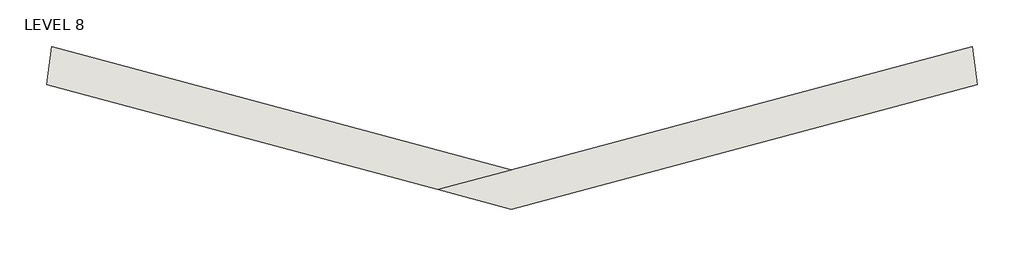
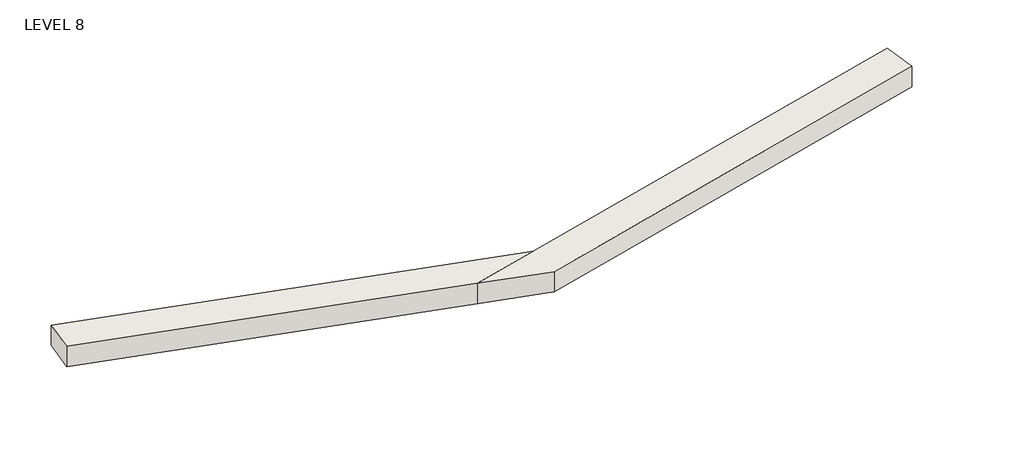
# One storey: 2 walls.
"""IFC4 building model written with IfcOpenShell, lengths in millimetres."""

from ifc_helpers import new_model, si_unit, frame, origin, place, context, project, spatial, polyline, outline, extrude, faceted_brep, element, save

model = new_model("IFC4")

# Units and contexts
model_context = context("Model", 3, world=origin())
ifc_project = project(units=[si_unit("LENGTHUNIT", "METRE", prefix="MILLI")], contexts=[model_context])

# Site, building, storey
site = spatial("IfcSite", under=ifc_project)
building = spatial("IfcBuilding", under=site)
storey = spatial("IfcBuildingStorey", under=building, Name="LEVEL 8", Elevation=3352.8)

# Walls
placement = place(None, origin())
element("IfcWall", 1, ObjectType="Co-house - Exterior - Brick on CMU", at=placement, inside=storey, context=model_context, shape_type="SweptSolid", body=[
    extrude(outline(polyline([(6886.9992457, -4523.906051), (1802.5171906, -3157.6702344), (1867.9027768, -2662.3702344), (7842.6755054, -4267.833369), (6886.9992457, -4523.906051)])), frame((0.0, 0.0, 3352.8), z_axis=(0.0, 0.0, 1.0), x_axis=(1.0, 0.0, 0.0)), (0.0, 0.0, 1.0), 304.8),
])
element("IfcWall", 2, ObjectType="Co-house - Exterior - Brick on CMU", at=placement, inside=storey, context=model_context, shape_type="Brep", body=[
    faceted_brep([(13834.3454933, -2662.3702344, 3352.8), (7842.6755054, -4267.833369, 3352.8), (6886.9992457, -4523.906051, 3352.8), (6886.9992457, -4523.906051, 3657.6), (7842.6755054, -4267.833369, 3657.6), (13834.3454933, -2662.3702344, 3657.6), (13899.5529754, -3157.6702344, 3352.8), (13899.5529754, -3157.6702344, 3657.6), (7842.4942512, -4780.6542281, 3657.6), (7842.4942512, -4780.6542281, 3352.8)], [[[0, 1, 2, 3, 4, 5]], [[6, 7, 8, 9]], [[2, 1, 0, 6, 9]], [[5, 4, 3, 8, 7]], [[3, 2, 9, 8]], [[0, 5, 7, 6]]]),
])

save(model, "model.ifc")
